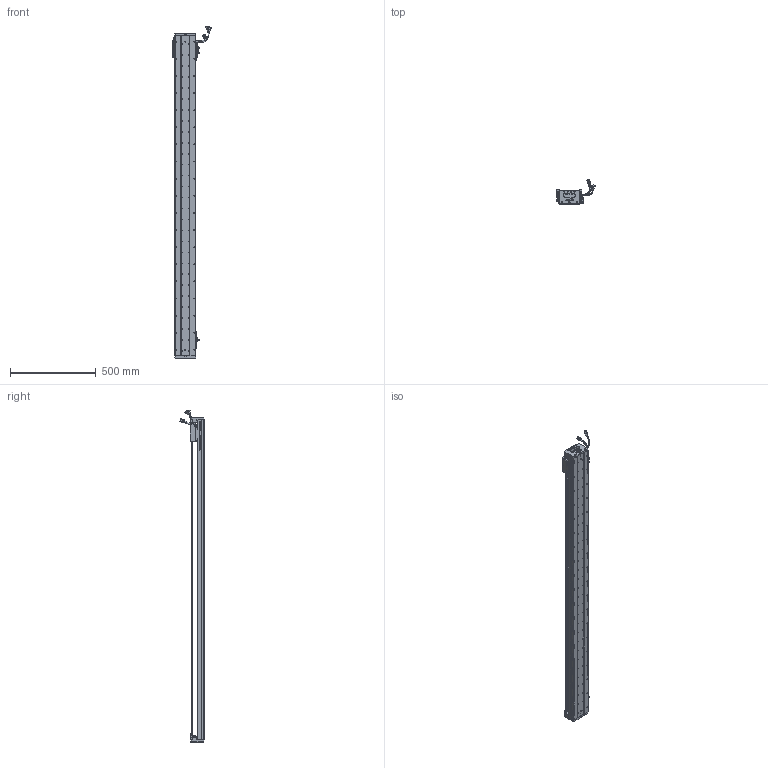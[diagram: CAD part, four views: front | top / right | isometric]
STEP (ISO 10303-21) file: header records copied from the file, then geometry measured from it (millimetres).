
FILE_DESCRIPTION (( 'STEP AP203' ), '1' );
FILE_NAME ('Z1-RY120D-1-L500-B-K.SLDASM_1700.step', '2021-05-17T03:48:34', ( '盈信电脑' ), ( '东莞市道滘镇水果街19号' ), 'SwSTEP 2.0', 'SolidWorks 2016', '' );
FILE_SCHEMA (( 'CONFIG_CONTROL_DESIGN' ));
Length unit declared in the file: millimetre
Products named in the file (37): HARNESS-Part-2; RY100FB-遵嫖萇覜茼え; SEAL-Part-1; 140蚥薯蝶輸; HARNESS; Z1-RY120-L500詩湍100mm遵_1700; COVER-Part-1; COVER; 覜茼ん672; SCREW-M1.6-1; SCREW-M1.7; SCALE-Part-2; SHIELDPLATE; Z-RY120D詩湍奻揤裔; LABEL-Part-1; SCALE-Part-1; Z1-RY120D-1-L500-B-K.SLDASM_1700; 120-Z-臏賑輸盄裔(21遴); 080黍杅芛假蚾釱21遴; SCREW-M1.6; Z1-RY120-500-倰第菁釱_1700; 140雄赽晤鎢ん堤盄; Z-RY120D詩湍狟揤裔; SEAL; 672嫖萇羲壽假蚾釱; LABEL; SCREW-M1.6-3; 榋妏寠巭燃_暯_M2_2; SCALE; PSLH080_PSLF2; HOLDER0; Z1-RY120铝滑块（21款）; PBU_SHEET; HARNESS-Part-1; Z-120詩湍傷裔啣; SCREW-M1.6-2; SCREW-M1.7-1
Assembly tree (43 placements, depth 4):
  Z1-RY120D-1-L500-B-K.SLDASM_1700
    Z1-RY120-500-倰第菁釱_1700
    覜茼ん672  x3
    672嫖萇羲壽假蚾釱  x2
    Z1-RY120铝滑块（21款）
    PSLH080_PSLF2
      SCALE
        SCALE-Part-1
        SCALE-Part-2
      HARNESS
        HARNESS-Part-1
        HARNESS-Part-2
      LABEL
        LABEL-Part-1
      COVER
        COVER-Part-1
      SEAL
        SEAL-Part-1
      榋妏寠巭燃_暯_M2_2
      SHIELDPLATE
      SCREW-M1.7
      SCREW-M1.7-1
      PBU_SHEET
      SCREW-M1.6
      SCREW-M1.6-1
      SCREW-M1.6-2
      SCREW-M1.6-3
      HOLDER0
    080黍杅芛假蚾釱21遴
    120-Z-臏賑輸盄裔(21遴)
    140雄赽晤鎢ん堤盄
    140蚥薯蝶輸  x2
    RY100FB-遵嫖萇覜茼え
    Z-120詩湍傷裔啣  x2
    Z-RY120D詩湍奻揤裔  x2
    Z-RY120D詩湍狟揤裔  x2
    Z1-RY120-L500詩湍100mm遵_1700
Bounding box: 222.86 x 140.94 x 1938.99 mm (x, y, z)
Volume: 4461053.8 mm3; surface area: 1592313.2 mm2
Topology: 38 solids, 38 shells, 3219 faces, 9010 edges, 5694 vertices
Faces by surface type: cylinder 1594, plane 1183, cone 320, torus 69, bspline 53
Entity records: 104013 total; most frequent: CARTESIAN_POINT 30732, ORIENTED_EDGE 14908, DIRECTION 13906, EDGE_CURVE 7454, AXIS2_PLACEMENT_3D 5100, VERTEX_POINT 4814, VECTOR 3706, LINE 3706
